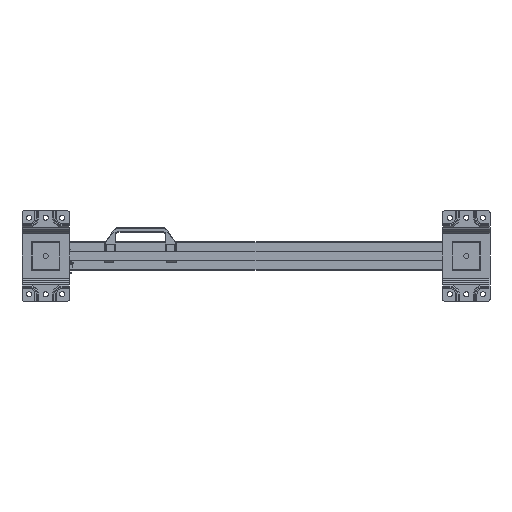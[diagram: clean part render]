
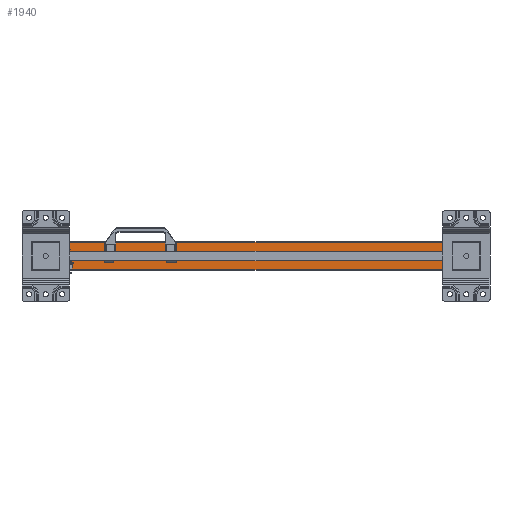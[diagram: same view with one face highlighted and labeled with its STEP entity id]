
A CAD part, front view. The second image highlights one B-rep face of the part: STEP entity #1940.
In plain terms, the highlighted planar face has unit normal (0, -1, 0).
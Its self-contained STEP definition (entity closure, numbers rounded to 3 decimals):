
#1940=ADVANCED_FACE('',(#5741),#5742,.T.);
#5741=FACE_OUTER_BOUND('',#11714,.T.);
#5742=PLANE('',#11715);
#11714=EDGE_LOOP('',(#19231,#19232,#19233,#19234));
#11715=AXIS2_PLACEMENT_3D('',#19235,#19236,#19237);
#19231=ORIENTED_EDGE('',*,*,#36022,.T.);
#19232=ORIENTED_EDGE('',*,*,#36023,.F.);
#19233=ORIENTED_EDGE('',*,*,#36024,.T.);
#19234=ORIENTED_EDGE('',*,*,#36012,.T.);
#19235=CARTESIAN_POINT('',(0.0,2039.0,30.));
#19236=DIRECTION('',(0.,-1.0,0.));
#19237=DIRECTION('',(-1.0,0.,0.0));
#36012=EDGE_CURVE('',#42922,#42920,#42923,.T.);
#36022=EDGE_CURVE('',#42920,#42935,#42936,.T.);
#36023=EDGE_CURVE('',#42937,#42935,#42938,.T.);
#36024=EDGE_CURVE('',#42937,#42922,#42939,.T.);
#42920=VERTEX_POINT('',#53050);
#42922=VERTEX_POINT('',#53053);
#42923=LINE('',#53054,#53055);
#42935=VERTEX_POINT('',#53073);
#42936=LINE('',#53074,#53075);
#42937=VERTEX_POINT('',#53076);
#42938=LINE('',#53077,#53078);
#42939=LINE('',#53079,#53080);
#53050=CARTESIAN_POINT('',(830.0,2039.0,-30.));
#53053=CARTESIAN_POINT('',(0.,2039.0,-30.));
#53054=CARTESIAN_POINT('',(0.,2039.0,-30.));
#53055=VECTOR('',#68364,10.0);
#53073=CARTESIAN_POINT('',(830.0,2039.0,30.));
#53074=CARTESIAN_POINT('',(830.0,2039.0,15.));
#53075=VECTOR('',#68371,1.0);
#53076=CARTESIAN_POINT('',(0.0,2039.0,30.));
#53077=CARTESIAN_POINT('',(0.0,2039.0,30.));
#53078=VECTOR('',#68372,10.0);
#53079=CARTESIAN_POINT('',(0.0,2039.0,30.));
#53080=VECTOR('',#68373,10.0);
#68364=DIRECTION('',(1.0,0.,0.));
#68371=DIRECTION('',(-0.0,0.,1.0));
#68372=DIRECTION('',(1.0,0.,0.));
#68373=DIRECTION('',(0.,0.,-1.0));
